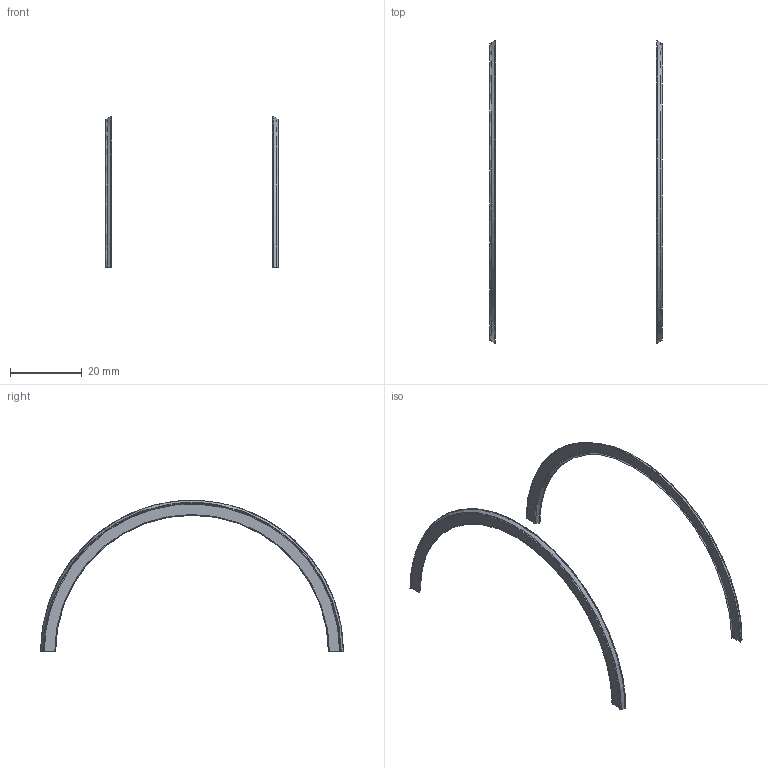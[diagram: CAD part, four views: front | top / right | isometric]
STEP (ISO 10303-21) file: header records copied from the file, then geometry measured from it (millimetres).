
FILE_DESCRIPTION(('Open CASCADE Model'),'2;1');
FILE_NAME('Open CASCADE Shape Model','2026-11-20T06:37:51',('Author'),( 'Open CASCADE'),'Open CASCADE STEP processor 7.8','Open CASCADE 7.8' ,'Unknown');
FILE_SCHEMA(('AUTOMOTIVE_DESIGN { 1 0 10303 214 1 1 1 1 }'));
Length unit declared in the file: millimetre
Products named in the file (3): A01_root_R025_partition_reference; Partition_Xminus; Partition_Xplus
Assembly tree (2 placements, depth 2):
  A01_root_R025_partition_reference
    Partition_Xminus
    Partition_Xplus
Bounding box: 48.15 x 84.5 x 42.25 mm (x, y, z)
Volume: 898.4 mm3; surface area: 2743.3 mm2
Topology: 2 solids, 2 shells, 30 faces, 78 edges, 52 vertices
Faces by surface type: sphere 12, bspline 10, plane 8
Entity records: 6348 total; most frequent: CARTESIAN_POINT 5033, DIRECTION 168, ORIENTED_EDGE 156, PCURVE 156, DEFINITIONAL_REPRESENTATION 156, B_SPLINE_CURVE_WITH_KNOTS 114, EDGE_CURVE 78, SURFACE_CURVE 78
